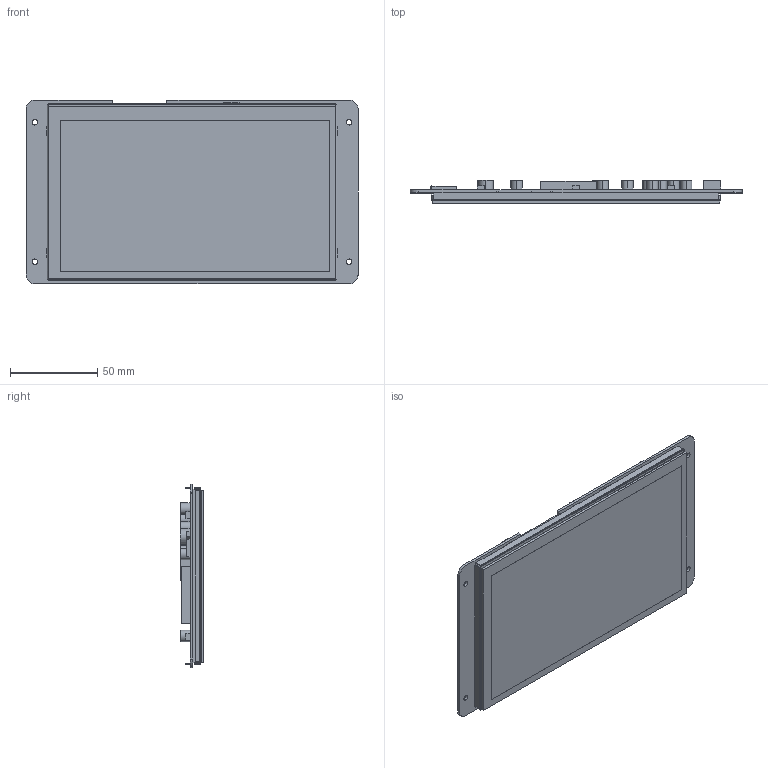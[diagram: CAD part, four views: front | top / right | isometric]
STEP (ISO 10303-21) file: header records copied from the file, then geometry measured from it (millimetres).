
FILE_DESCRIPTION (( 'STEP AP214' ), '1' );
FILE_NAME ('DMG10600T070-09WTR 3D.STEP', '2023-09-15T08:58:52', ( '' ), ( 'Microsoft' ), 'SwSTEP 2.0', 'SolidWorks 2017', '' );
FILE_SCHEMA (( 'AUTOMOTIVE_DESIGN' ));
Length unit declared in the file: millimetre
Products named in the file (5): DMG10600T070-09WTR 3D; YF07003?軞傖芞; LI10600T070HC7004; TK070019; DMG10600T070-09W
Assembly tree (4 placements, depth 2):
  DMG10600T070-09WTR 3D
    DMG10600T070-09W
    TK070019
    LI10600T070HC7004
    YF07003?軞傖芞
Bounding box: 190.5 x 13.34 x 105.41 mm (x, y, z)
Volume: 111033.8 mm3; surface area: 122345.7 mm2
Topology: 4 solids, 4 shells, 386 faces, 1053 edges, 694 vertices
Faces by surface type: plane 228, cylinder 150, bspline 8
Entity records: 16294 total; most frequent: CARTESIAN_POINT 2365, ORIENTED_EDGE 2106, DIRECTION 2090, EDGE_CURVE 1053, LINE 748, VECTOR 748, VERTEX_POINT 694, AXIS2_PLACEMENT_3D 671
